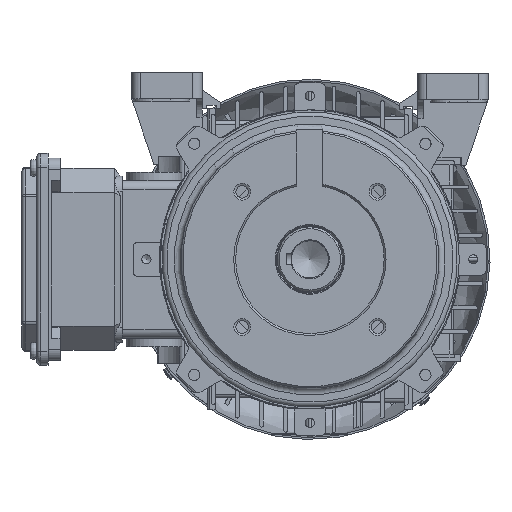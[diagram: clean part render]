
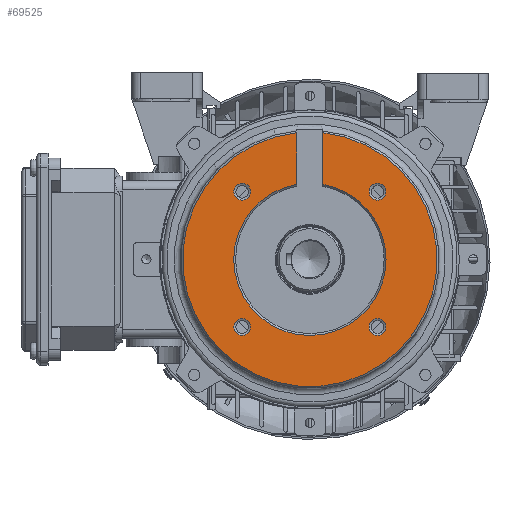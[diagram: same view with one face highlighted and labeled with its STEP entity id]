
A CAD part, left-side view. The second image highlights one B-rep face of the part: STEP entity #69525.
In plain terms, the highlighted planar face has unit normal (-1, 0, 0).
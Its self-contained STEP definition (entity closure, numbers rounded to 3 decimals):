
#898=FACE_BOUND('',#8596,.T.);
#899=FACE_BOUND('',#8597,.T.);
#900=FACE_BOUND('',#8598,.T.);
#901=FACE_BOUND('',#8599,.T.);
#2190=PLANE('',#74645);
#5000=FACE_OUTER_BOUND('',#8595,.T.);
#8595=EDGE_LOOP('',(#52572,#52573,#52574,#52575));
#8596=EDGE_LOOP('',(#52576,#52577));
#8597=EDGE_LOOP('',(#52578,#52579));
#8598=EDGE_LOOP('',(#52580,#52581));
#8599=EDGE_LOOP('',(#52582,#52583));
#12877=CIRCLE('',#74494,4.5);
#12878=CIRCLE('',#74495,4.5);
#12890=CIRCLE('',#74525,4.5);
#12891=CIRCLE('',#74526,4.5);
#12903=CIRCLE('',#74557,4.5);
#12904=CIRCLE('',#74558,4.5);
#12916=CIRCLE('',#74589,4.5);
#12917=CIRCLE('',#74590,4.5);
#12937=CIRCLE('',#74644,41.);
#12938=CIRCLE('',#74646,68.5);
#17140=LINE('',#110235,#23421);
#17143=LINE('',#110264,#23424);
#23421=VECTOR('',#86685,27.743);
#23424=VECTOR('',#86696,27.743);
#30083=VERTEX_POINT('',#110229);
#30084=VERTEX_POINT('',#110234);
#30091=VERTEX_POINT('',#110258);
#30092=VERTEX_POINT('',#110263);
#30099=VERTEX_POINT('',#110292);
#30100=VERTEX_POINT('',#110294);
#30142=VERTEX_POINT('',#110494);
#30143=VERTEX_POINT('',#110496);
#30185=VERTEX_POINT('',#110691);
#30186=VERTEX_POINT('',#110693);
#30228=VERTEX_POINT('',#110888);
#30229=VERTEX_POINT('',#110890);
#38253=EDGE_CURVE('',#30083,#30084,#17140,.T.);
#38261=EDGE_CURVE('',#30091,#30092,#17143,.T.);
#38273=EDGE_CURVE('',#30100,#30099,#12877,.T.);
#38274=EDGE_CURVE('',#30099,#30100,#12878,.T.);
#38328=EDGE_CURVE('',#30143,#30142,#12890,.T.);
#38329=EDGE_CURVE('',#30142,#30143,#12891,.T.);
#38383=EDGE_CURVE('',#30186,#30185,#12903,.T.);
#38384=EDGE_CURVE('',#30185,#30186,#12904,.T.);
#38438=EDGE_CURVE('',#30229,#30228,#12916,.T.);
#38439=EDGE_CURVE('',#30228,#30229,#12917,.T.);
#38524=EDGE_CURVE('',#30083,#30092,#12937,.T.);
#38525=EDGE_CURVE('',#30084,#30091,#12938,.T.);
#52572=ORIENTED_EDGE('',*,*,#38261,.F.);
#52573=ORIENTED_EDGE('',*,*,#38525,.F.);
#52574=ORIENTED_EDGE('',*,*,#38253,.F.);
#52575=ORIENTED_EDGE('',*,*,#38524,.T.);
#52576=ORIENTED_EDGE('',*,*,#38273,.T.);
#52577=ORIENTED_EDGE('',*,*,#38274,.T.);
#52578=ORIENTED_EDGE('',*,*,#38328,.T.);
#52579=ORIENTED_EDGE('',*,*,#38329,.T.);
#52580=ORIENTED_EDGE('',*,*,#38383,.T.);
#52581=ORIENTED_EDGE('',*,*,#38384,.T.);
#52582=ORIENTED_EDGE('',*,*,#38438,.T.);
#52583=ORIENTED_EDGE('',*,*,#38439,.T.);
#69525=ADVANCED_FACE('',(#5000,#898,#899,#900,#901),#2190,.T.);
#74494=AXIS2_PLACEMENT_3D('',#110295,#86715,#86716);
#74495=AXIS2_PLACEMENT_3D('',#110296,#86717,#86718);
#74525=AXIS2_PLACEMENT_3D('',#110497,#86805,#86806);
#74526=AXIS2_PLACEMENT_3D('',#110498,#86807,#86808);
#74557=AXIS2_PLACEMENT_3D('',#110694,#86897,#86898);
#74558=AXIS2_PLACEMENT_3D('',#110695,#86899,#86900);
#74589=AXIS2_PLACEMENT_3D('',#110891,#86989,#86990);
#74590=AXIS2_PLACEMENT_3D('',#110892,#86991,#86992);
#74644=AXIS2_PLACEMENT_3D('',#111206,#87138,#87139);
#74645=AXIS2_PLACEMENT_3D('',#111207,#87140,#87141);
#74646=AXIS2_PLACEMENT_3D('',#111208,#87142,#87143);
#86685=DIRECTION('',(0.,0.,1.));
#86696=DIRECTION('',(0.,0.,-1.));
#86715=DIRECTION('center_axis',(1.,0.,0.));
#86716=DIRECTION('ref_axis',(0.,-0.707,0.707));
#86717=DIRECTION('center_axis',(1.,0.,0.));
#86718=DIRECTION('ref_axis',(0.,-0.707,0.707));
#86805=DIRECTION('center_axis',(1.,0.,0.));
#86806=DIRECTION('ref_axis',(0.,-0.707,0.707));
#86807=DIRECTION('center_axis',(1.,0.,0.));
#86808=DIRECTION('ref_axis',(0.,-0.707,0.707));
#86897=DIRECTION('center_axis',(1.,0.,0.));
#86898=DIRECTION('ref_axis',(0.,-0.707,0.707));
#86899=DIRECTION('center_axis',(1.,0.,0.));
#86900=DIRECTION('ref_axis',(0.,-0.707,0.707));
#86989=DIRECTION('center_axis',(1.,0.,0.));
#86990=DIRECTION('ref_axis',(0.,-0.707,0.707));
#86991=DIRECTION('center_axis',(1.,0.,0.));
#86992=DIRECTION('ref_axis',(0.,-0.707,0.707));
#87138=DIRECTION('center_axis',(1.,0.,0.));
#87139=DIRECTION('ref_axis',(0.,-0.707,0.707));
#87140=DIRECTION('center_axis',(-1.,0.,0.));
#87141=DIRECTION('ref_axis',(0.,0.707,-0.707));
#87142=DIRECTION('center_axis',(1.,0.,0.));
#87143=DIRECTION('ref_axis',(0.,-0.707,0.707));
#110229=CARTESIAN_POINT('',(-132.,-7.,40.398));
#110234=CARTESIAN_POINT('',(-132.,-7.,68.141));
#110235=CARTESIAN_POINT('',(-132.,-7.,36.976));
#110258=CARTESIAN_POINT('',(-132.,7.,68.141));
#110263=CARTESIAN_POINT('',(-132.,7.,40.398));
#110264=CARTESIAN_POINT('',(-132.,7.,69.976));
#110292=CARTESIAN_POINT('',(-132.,39.598,-39.598));
#110294=CARTESIAN_POINT('',(-132.,33.234,-33.234));
#110295=CARTESIAN_POINT('Origin',(-132.,36.416,-36.416));
#110296=CARTESIAN_POINT('Origin',(-132.,36.416,-36.416));
#110494=CARTESIAN_POINT('',(-132.,-33.234,-39.598));
#110496=CARTESIAN_POINT('',(-132.,-39.598,-33.234));
#110497=CARTESIAN_POINT('Origin',(-132.,-36.416,-36.416));
#110498=CARTESIAN_POINT('Origin',(-132.,-36.416,-36.416));
#110691=CARTESIAN_POINT('',(-132.,-33.234,33.234));
#110693=CARTESIAN_POINT('',(-132.,-39.598,39.598));
#110694=CARTESIAN_POINT('Origin',(-132.,-36.416,36.416));
#110695=CARTESIAN_POINT('Origin',(-132.,-36.416,36.416));
#110888=CARTESIAN_POINT('',(-132.,39.598,33.234));
#110890=CARTESIAN_POINT('',(-132.,33.234,39.598));
#110891=CARTESIAN_POINT('Origin',(-132.,36.416,36.416));
#110892=CARTESIAN_POINT('Origin',(-132.,36.416,36.416));
#111206=CARTESIAN_POINT('Origin',(-132.,0.,0.));
#111207=CARTESIAN_POINT('Origin',(-132.,-28.991,28.991));
#111208=CARTESIAN_POINT('Origin',(-132.,0.,0.));
